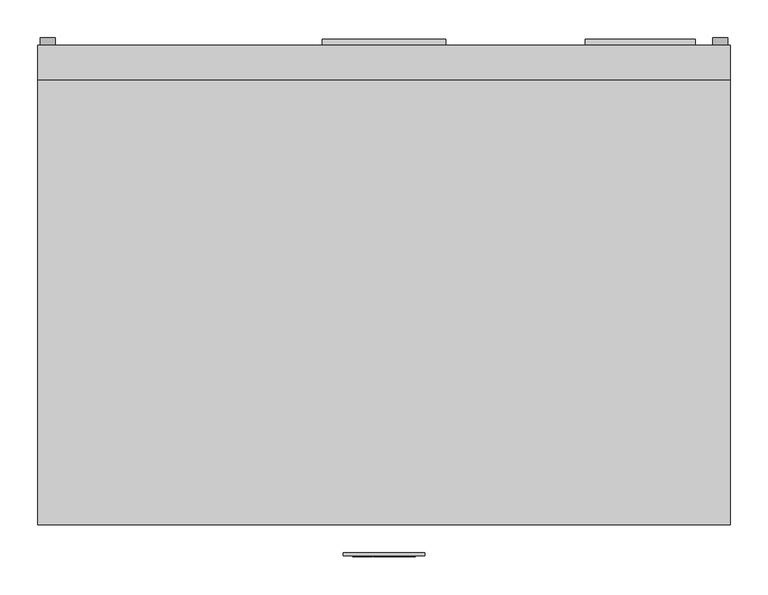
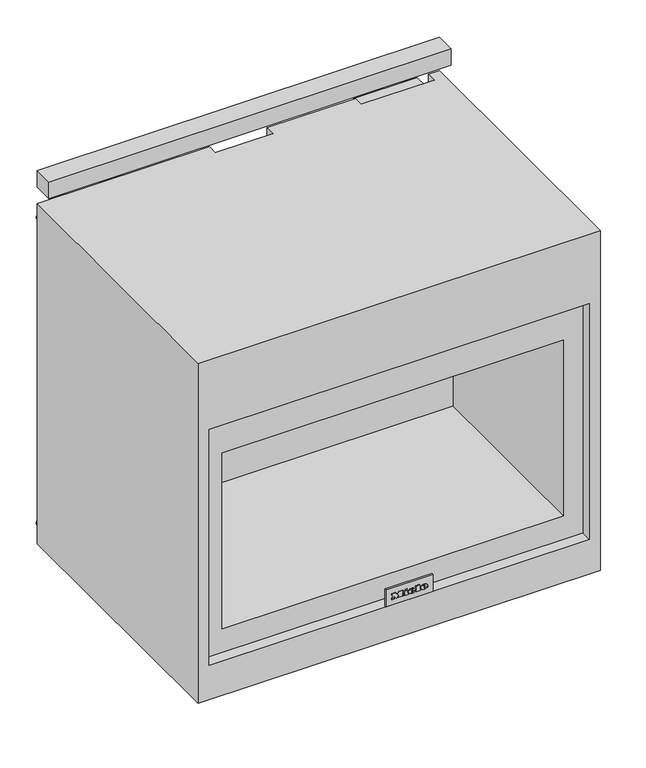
"""IFC4 building model written with IfcOpenShell, lengths in millimetres: proxy geometry, 11791630_USA_HR1936-3LP_EDST-CLS : 25193682_USA_11791630_HR1936-3LP_EDST-CLS."""

from ifc_helpers import new_model, si_unit, point, frame, frame_2d, origin, place, context, project, spatial, polyline, circle_curve, ellipse_curve, trimmed, segment, composite_curve, outline, extrude, faceted_brep, source, transform, mapped, element, save
from ifc_brep_helpers import plane_surface, cylinder_surface, revolved_surface, extruded_surface, advanced_brep


def specialty_equipment_10349fa4(model_context):
    return source(origin(), model_context, "Body", "SolidModel", [
        faceted_brep([(-457.0, 0.0, 862.0), (-457.0, -633.0, 862.0), (457.0, -633.0, 862.0), (457.0, 0.0, 862.0), (432.0, 0.0, 862.0), (432.0, -23.0, 862.0), (266.0, -23.0, 862.0), (266.0, 0.0, 862.0), (65.0, 0.0, 862.0), (65.0, -23.0, 862.0), (-66.0, -23.0, 862.0), (-66.0, 0.0, 862.0), (457.0, 0.0, 45.0), (457.0, -633.0, 45.0), (-457.0, -633.0, 45.0), (-457.0, 0.0, 45.0), (-432.0, 0.0, 45.0), (-432.0, -75.0, 45.0), (432.0, -75.0, 45.0), (432.0, 0.0, 45.0), (266.0, 0.0, 132.0), (65.0, 0.0, 132.0), (-66.0, 0.0, 132.0), (-270.0, 0.0, 132.0), (-270.0, 0.0, 784.0), (-411.0, 0.0, 784.0), (-411.0, 0.0, 132.0), (-432.0, 0.0, 132.0), (432.0, -633.0, 695.0), (432.0, -633.0, 128.0), (-432.0, -633.0, 128.0), (-432.0, -633.0, 695.0), (432.0, -608.0, 695.0), (-432.0, -608.0, 695.0), (-432.0, -608.0, 128.0), (432.0, -608.0, 128.0), (388.0, -608.0, 608.0), (388.0, -608.0, 185.0), (-388.0, -608.0, 185.0), (-388.0, -608.0, 608.0), (388.0, -173.0, 608.0), (-388.0, -173.0, 608.0), (-388.0, -173.0, 185.0), (388.0, -173.0, 185.0), (432.0, -23.0, 132.0), (266.0, -23.0, 132.0), (65.0, -23.0, 132.0), (-66.0, -23.0, 132.0), (432.0, -75.0, 132.0), (-411.0, -69.0, 784.0), (-270.0, -69.0, 784.0), (-270.0, -69.0, 132.0), (-411.0, -69.0, 132.0), (-432.0, -75.0, 132.0)], [[[0, 1, 2, 3, 4, 5, 6, 7, 8, 9, 10, 11]], [[12, 13, 14, 15, 16, 17, 18, 19]], [[8, 7, 20, 21]], [[3, 12, 19, 4]], [[15, 0, 11, 22, 23, 24, 25, 26, 27, 16]], [[1, 0, 15, 14]], [[2, 1, 14, 13], [28, 29, 30, 31]], [[3, 2, 13, 12]], [[32, 33, 34, 35], [36, 37, 38, 39]], [[32, 35, 29, 28]], [[35, 34, 30, 29]], [[34, 33, 31, 30]], [[33, 32, 28, 31]], [[40, 41, 42, 43]], [[40, 43, 37, 36]], [[43, 42, 38, 37]], [[42, 41, 39, 38]], [[41, 40, 36, 39]], [[6, 5, 44, 45]], [[10, 9, 46, 47]], [[9, 8, 21, 46]], [[11, 10, 47, 22]], [[5, 4, 19, 18, 48, 44]], [[7, 6, 45, 20]], [[49, 50, 51, 52]], [[50, 49, 25, 24]], [[50, 24, 23, 51]], [[25, 49, 52, 26]], [[53, 48, 18, 17]], [[27, 53, 17, 16]], [[48, 53, 27, 26, 52, 51, 23, 22, 47, 46, 21, 20, 45, 44]]]),
        extrude(outline(composite_curve([segment(trimmed(circle_curve(frame_2d((748.0, -299.0)), 7.5), [point((748.0, -291.5))], [point((748.0, -306.5))], False, "CARTESIAN"), True, "CONTINUOUS"), segment(trimmed(circle_curve(frame_2d((748.0, -299.0)), 7.5), [point((748.0, -306.5))], [point((748.0, -291.5))], False, "CARTESIAN"), True, "CONTINUOUS")], self_intersect=False)), frame((0.0, -66.0, 0.0), z_axis=(0.0, 1.0, 0.0), x_axis=(0.0, 0.0, 1.0)), (0.0, 0.0, 1.0), 30.0),
        extrude(outline(polyline([(743.0, -288.4829639), (753.0509015, -288.4829639), (753.0509015, -289.7409127), (748.1386151, -289.7409127), (753.0475587, -294.8904554), (753.0475587, -296.6455728), (748.9164775, -292.3179994), (743.0, -296.8019347), (743.0, -295.2701694), (748.0664133, -291.4304743), (746.4465471, -289.7392234), (743.0, -289.7392234), (743.0, -288.4829639)])), frame((0.0, -36.0, 0.0), z_axis=(0.0, 1.0, 0.0), x_axis=(0.0, 0.0, 1.0)), (0.0, 0.0, 1.0), 1.0),
        extrude(outline(polyline([(742.9900117, -299.5376107), (753.0405487, -296.8032463), (753.0405487, -298.1010309), (744.3952189, -300.1941056), (753.0411296, -302.6946617), (753.0411296, -304.5615338), (744.4117226, -307.0845612), (753.0419182, -309.165026), (753.0419182, -310.4626989), (742.9984871, -307.7244126), (742.9984871, -306.3735976), (751.8308623, -303.6286268), (742.9900117, -301.0716905), (742.9900117, -299.5376107)])), frame((0.0, -36.0, 0.0), z_axis=(0.0, 1.0, 0.0), x_axis=(0.0, 0.0, 1.0)), (0.0, 0.0, 1.0), 1.0),
        extrude(outline(composite_curve([segment(trimmed(circle_curve(frame_2d((-362.0, -35.0)), 7.5), [point((-369.5, -35.0))], [point((-354.5, -35.0))], False, "CARTESIAN"), True, "CONTINUOUS"), segment(trimmed(circle_curve(frame_2d((-362.0, -35.0)), 7.5), [point((-354.5, -35.0))], [point((-369.5, -35.0))], False, "CARTESIAN"), True, "CONTINUOUS")], self_intersect=False)), frame((0.0, 0.0, 754.0), z_axis=(0.0, 0.0, 1.0), x_axis=(1.0, 0.0, 0.0)), (0.0, 0.0, 1.0), 30.0),
        extrude(outline(composite_curve([segment(trimmed(circle_curve(frame_2d((239.0, -44.0)), 7.5), [point((239.0, -51.5))], [point((239.0, -36.5))], False, "CARTESIAN"), True, "CONTINUOUS"), segment(trimmed(circle_curve(frame_2d((239.0, -44.0)), 7.5), [point((239.0, -36.5))], [point((239.0, -51.5))], False, "CARTESIAN"), True, "CONTINUOUS")], self_intersect=False)), frame((0.0, 0.0, 102.0), z_axis=(0.0, 0.0, 1.0), x_axis=(1.0, 0.0, 0.0)), (0.0, 0.0, 1.0), 30.0),
        extrude(outline(polyline([(246.4261097, -48.2846028), (239.1553153, -48.2846028), (239.1553153, -47.0259878), (245.1324687, -47.0259878), (245.1324687, -44.0398896), (239.4699511, -44.0398896), (239.4699511, -42.7868997), (245.1324687, -42.7868997), (245.1324687, -39.484481), (239.0234692, -39.484481), (239.0234692, -38.223126), (246.4261097, -38.223126), (246.4261097, -48.2846028)])), frame((0.0, 0.0, 101.0), z_axis=(0.0, 0.0, 1.0), x_axis=(1.0, 0.0, 0.0)), (0.0, 0.0, 1.0), 1.0),
        extrude(outline(polyline([(237.0939455, -48.2781045), (230.9083542, -48.2781045), (230.9083542, -47.0259878), (235.9083542, -47.0259878), (235.9083542, -38.223126), (237.0939455, -38.223126), (237.0939455, -48.2781045)])), frame((0.0, 0.0, 101.0), z_axis=(0.0, 0.0, 1.0), x_axis=(1.0, 0.0, 0.0)), (0.0, 0.0, 1.0), 1.0),
        extrude(outline(composite_curve([segment(polyline([(-359.0941465, -34.8216074), (-355.0193946, -34.8216074), (-355.0193946, -36.0727848), (-357.8300756, -36.0727848), (-357.8300756, -37.8953779), (-356.5547934, -38.5734575), (-354.8554891, -38.8730907)]), True, "CONTINUOUS"), segment(trimmed(circle_curve(frame_2d((-354.7763582, -35.1835188)), 3.6904203), [point((-354.8554891, -38.8730907))], [point((-351.0917956, -34.975672))], True, "CARTESIAN"), True, "CONTINUOUS"), segment(trimmed(circle_curve(frame_2d((-355.2742118, -35.2116028)), 4.1890654), [point((-351.0917956, -34.975672))], [point((-354.8924604, -31.0399683))], True, "CARTESIAN"), True, "CONTINUOUS"), segment(trimmed(circle_curve(frame_2d((-355.1434541, -33.7827322)), 2.7542243), [point((-354.8924604, -31.0399683))], [point((-357.2311401, -31.9862582))], True, "CARTESIAN"), True, "CONTINUOUS"), segment(polyline([(-357.2311401, -31.9862582), (-357.7913432, -33.1348449), (-358.9545959, -32.808521), (-358.2222817, -31.1459412)]), True, "CONTINUOUS"), segment(trimmed(circle_curve(frame_2d((-355.0056573, -34.3038983)), 4.5077007), [point((-358.2222817, -31.1459412))], [point((-354.8478593, -29.7989604))], False, "CARTESIAN"), True, "CONTINUOUS"), segment(trimmed(circle_curve(frame_2d((-355.0297107, -35.0029797)), 5.2071956), [point((-354.8478593, -29.7989604))], [point((-349.8225151, -35.0029797))], False, "CARTESIAN"), True, "CONTINUOUS"), segment(trimmed(circle_curve(frame_2d((-355.0187023, -34.9634409)), 5.1963376), [point((-349.8225151, -35.0029797))], [point((-355.0187023, -40.1597785))], False, "CARTESIAN"), True, "CONTINUOUS"), segment(polyline([(-355.0187023, -40.1597785), (-357.0821579, -39.7823822), (-359.0941465, -38.5734575), (-359.0941465, -34.8216074)]), True, "CONTINUOUS")], self_intersect=False)), frame((0.0, 0.0, 753.0), z_axis=(0.0, 0.0, 1.0), x_axis=(1.0, 0.0, 0.0)), (0.0, 0.0, 1.0), 1.0),
        extrude(outline(composite_curve([segment(polyline([(-369.4581842, -37.6489066), (-368.202206, -37.8031213), (-369.1593436, -39.5606642)]), True, "CONTINUOUS"), segment(trimmed(circle_curve(frame_2d((-371.3057471, -36.6354063)), 3.6282478), [point((-369.1593436, -39.5606642))], [point((-372.8962663, -39.8964538))], False, "CARTESIAN"), True, "CONTINUOUS"), segment(trimmed(circle_curve(frame_2d((-371.7731504, -37.593725)), 2.5620205), [point((-372.8962663, -39.8964538))], [point((-374.32893, -37.7724425))], False, "CARTESIAN"), True, "CONTINUOUS"), segment(trimmed(circle_curve(frame_2d((-372.617737, -37.6527843)), 1.7153715), [point((-374.32893, -37.7724425))], [point((-373.147816, -36.021369))], False, "CARTESIAN"), True, "CONTINUOUS"), segment(polyline([(-373.147816, -36.021369), (-371.3069947, -35.4232499), (-369.987673, -33.9770867)]), True, "CONTINUOUS"), segment(trimmed(circle_curve(frame_2d((-371.1408399, -36.351197)), 2.6393548), [point((-369.987673, -33.9770867))], [point((-372.2940069, -33.9770867))], True, "CARTESIAN"), True, "CONTINUOUS"), segment(polyline([(-372.2940069, -33.9770867), (-372.7553884, -34.6611129), (-374.0084996, -34.5072502), (-373.5756304, -33.3795875)]), True, "CONTINUOUS"), segment(trimmed(circle_curve(frame_2d((-370.9527143, -36.6576461)), 4.1982564), [point((-373.5756304, -33.3795875))], [point((-371.0505395, -32.4605295))], False, "CARTESIAN"), True, "CONTINUOUS"), segment(trimmed(circle_curve(frame_2d((-370.9805679, -35.4626064)), 3.0028922), [point((-371.0505395, -32.4605295))], [point((-368.5718203, -33.6694816))], False, "CARTESIAN"), True, "CONTINUOUS"), segment(trimmed(circle_curve(frame_2d((-370.4380028, -34.5301363)), 2.0550823), [point((-368.5718203, -33.6694816))], [point((-369.4341096, -36.323335))], False, "CARTESIAN"), True, "CONTINUOUS"), segment(polyline([(-369.4341096, -36.323335), (-371.3494535, -36.9828408), (-373.0597255, -37.9076387), (-372.6768706, -38.6156702)]), True, "CONTINUOUS"), segment(trimmed(circle_curve(frame_2d((-371.3695779, -35.6018954)), 3.2850956), [point((-372.6768706, -38.6156702))], [point((-370.0622852, -38.6156702))], True, "CARTESIAN"), True, "CONTINUOUS"), segment(polyline([(-370.0622852, -38.6156702), (-369.4581842, -37.6489066)]), True, "CONTINUOUS")], self_intersect=False)), frame((0.0, 0.0, 753.0), z_axis=(0.0, 0.0, 1.0), x_axis=(1.0, 0.0, 0.0)), (0.0, 0.0, 1.0), 1.0),
        extrude(outline(composite_curve([segment(polyline([(-366.0009008, -40.0), (-367.2635363, -40.0), (-367.0191787, -38.9415709), (-366.8778726, -34.1117735)]), True, "CONTINUOUS"), segment(trimmed(circle_curve(frame_2d((-365.387549, -34.1553762)), 1.4909613), [point((-366.8778726, -34.1117735))], [point((-365.6381402, -32.6856246))], False, "CARTESIAN"), True, "CONTINUOUS"), segment(trimmed(circle_curve(frame_2d((-364.1175682, -37.7832301)), 5.3195602), [point((-365.6381402, -32.6856246))], [point((-362.440667, -32.7348914))], False, "CARTESIAN"), True, "CONTINUOUS"), segment(polyline([(-362.440667, -32.7348914), (-361.3643767, -33.4338425), (-360.8177226, -34.6616478), (-362.0710839, -34.8155412), (-362.6628147, -33.9704619)]), True, "CONTINUOUS"), segment(trimmed(circle_curve(frame_2d((-363.889909, -36.6278559)), 2.9270297), [point((-362.6628147, -33.9704619))], [point((-365.335883, -34.0829271))], True, "CARTESIAN"), True, "CONTINUOUS"), segment(polyline([(-365.335883, -34.0829271), (-365.6819155, -35.289686), (-362.4250607, -35.9227545)]), True, "CONTINUOUS"), segment(trimmed(circle_curve(frame_2d((-362.8373847, -38.0439776)), 2.1609254), [point((-362.4250607, -35.9227545))], [point((-361.2872437, -39.5495212))], False, "CARTESIAN"), True, "CONTINUOUS"), segment(trimmed(circle_curve(frame_2d((-363.2230106, -36.6941434)), 3.4496922), [point((-361.2872437, -39.5495212))], [point((-364.4810512, -39.9062626))], False, "CARTESIAN"), True, "CONTINUOUS"), segment(polyline([(-364.4810512, -39.9062626), (-365.6943945, -39.0566705), (-366.0009008, -40.0)]), True, "CONTINUOUS")], self_intersect=False), holes=[composite_curve([segment(polyline([(-365.6808047, -36.7241112), (-365.4778117, -37.8753414), (-364.6808418, -38.5929363), (-363.3846505, -38.8921857)]), True, "CONTINUOUS"), segment(trimmed(circle_curve(frame_2d((-363.1641539, -37.9371101)), 0.980198), [point((-363.3846505, -38.8921857))], [point((-362.5826105, -37.148063))], True, "CARTESIAN"), True, "CONTINUOUS"), segment(polyline([(-362.5826105, -37.148063), (-363.683896, -36.9339948), (-365.6808047, -36.7241112)]), True, "CONTINUOUS")], self_intersect=False)]), frame((0.0, 0.0, 753.0), z_axis=(0.0, 0.0, 1.0), x_axis=(1.0, 0.0, 0.0)), (0.0, 0.0, 1.0), 1.0),
        extrude(outline(composite_curve([segment(trimmed(circle_curve(frame_2d((-152.0, 39.6862697)), 39.6862697), [point((-112.6710759, 45.0))], [point((-191.3289241, 45.0))], False, "CARTESIAN"), True, "CONTINUOUS"), segment(polyline([(-191.3289241, 45.0), (-112.6710759, 45.0)]), True, "CONTINUOUS")], self_intersect=False)), frame((282.0, 0.0, 0.0), z_axis=(1.0, 0.0, 0.0), x_axis=(0.0, 1.0, 0.0)), (0.0, 0.0, 1.0), 28.0),
        extrude(outline(polyline([(-81.5, 8.0), (81.5, 8.0), (81.5, 0.0), (-81.5, 0.0), (-81.5, 8.0)])), frame((0.0, 0.0, 559.0), z_axis=(0.0, 0.0, 1.0), x_axis=(1.0, 0.0, 0.0)), (0.0, 0.0, 1.0), 237.0),
        extrude(outline(polyline([(266.0, 8.0), (411.0, 8.0), (411.0, -23.0), (266.0, -23.0), (266.0, 8.0)])), frame((0.0, 0.0, 742.0), z_axis=(0.0, 0.0, 1.0), x_axis=(1.0, 0.0, 0.0)), (0.0, 0.0, 1.0), 115.0),
        extrude(outline(composite_curve([segment(trimmed(circle_curve(frame_2d((822.0, 444.0)), 10.0), [point((822.0, 454.0))], [point((822.0, 434.0))], False, "CARTESIAN"), True, "CONTINUOUS"), segment(trimmed(circle_curve(frame_2d((822.0, 444.0)), 10.0), [point((822.0, 434.0))], [point((822.0, 454.0))], False, "CARTESIAN"), True, "CONTINUOUS")], self_intersect=False)), frame((0.0, 0.0, 0.0), z_axis=(0.0, 1.0, 0.0), x_axis=(0.0, 0.0, 1.0)), (0.0, 0.0, 1.0), 10.0),
        extrude(outline(composite_curve([segment(trimmed(circle_curve(frame_2d((87.0, 444.0)), 10.0), [point((87.0, 454.0))], [point((87.0, 434.0))], False, "CARTESIAN"), True, "CONTINUOUS"), segment(trimmed(circle_curve(frame_2d((87.0, 444.0)), 10.0), [point((87.0, 434.0))], [point((87.0, 454.0))], False, "CARTESIAN"), True, "CONTINUOUS")], self_intersect=False)), frame((0.0, 0.0, 0.0), z_axis=(0.0, 1.0, 0.0), x_axis=(0.0, 0.0, 1.0)), (0.0, 0.0, 1.0), 10.0),
        extrude(outline(composite_curve([segment(trimmed(circle_curve(frame_2d((822.0, -444.0)), 10.0), [point((822.0, -434.0))], [point((822.0, -454.0))], False, "CARTESIAN"), True, "CONTINUOUS"), segment(trimmed(circle_curve(frame_2d((822.0, -444.0)), 10.0), [point((822.0, -454.0))], [point((822.0, -434.0))], False, "CARTESIAN"), True, "CONTINUOUS")], self_intersect=False)), frame((0.0, 0.0, 0.0), z_axis=(0.0, 1.0, 0.0), x_axis=(0.0, 0.0, 1.0)), (0.0, 0.0, 1.0), 10.0),
        extrude(outline(composite_curve([segment(trimmed(circle_curve(frame_2d((87.0, -444.0)), 10.0), [point((87.0, -434.0))], [point((87.0, -454.0))], False, "CARTESIAN"), True, "CONTINUOUS"), segment(trimmed(circle_curve(frame_2d((87.0, -444.0)), 10.0), [point((87.0, -454.0))], [point((87.0, -434.0))], False, "CARTESIAN"), True, "CONTINUOUS")], self_intersect=False)), frame((0.0, 0.0, 0.0), z_axis=(0.0, 1.0, 0.0), x_axis=(0.0, 0.0, 1.0)), (0.0, 0.0, 1.0), 10.0),
        advanced_brep(
        [(32.17, -675.0, 177.1995), (32.17, -675.0, 178.563), (41.2015, -675.0, 178.563), (25.4875, -675.0, 178.563), (29.2, -675.0, 174.0), (40.972, -675.0, 177.1995), (36.895, -675.0, 177.1995), (33.682, -675.0, 175.6875), (32.17, -675.0, 180.291), (32.17, -675.0, 181.7625), (34.4785, -675.0, 181.7625), (34.4785, -675.0, 180.291), (32.17, -674.0, 177.1995), (33.682, -674.0, 175.6875), (36.895, -674.0, 177.1995), (40.972, -674.0, 177.1995), (29.2, -674.0, 174.0), (25.4875, -674.0, 178.563), (41.2015, -674.0, 178.563), (32.17, -674.0, 178.563), (32.17, -674.0, 180.291), (34.4785, -674.0, 180.291), (34.4785, -674.0, 181.7625), (32.17, -674.0, 181.7625)],
        [
            (0, 1),
            (1, 2),
            (2, 3, ellipse_curve(frame((33.3445, -675.0, 178.563), z_axis=(0.0, -1.0, 0.0), x_axis=(-1.0, 0.0, 0.0)), 7.857, 6.4935)),
            (3, 4, circle_curve(frame((30.7120736, -675.0, 179.022), z_axis=(0.0, -1.0, 0.0), x_axis=(0.0, 0.0, -1.0)), 5.2446974)),
            (4, 5, circle_curve(frame((33.1872142, -675.0, 182.586), z_axis=(0.0, -1.0, 0.0), x_axis=(0.0, 0.0, -1.0)), 9.46664)),
            (5, 6),
            (6, 7, circle_curve(frame((34.3419118, -675.0, 178.455), z_axis=(0.0, 1.0, 0.0), x_axis=(0.0, 0.0, -1.0)), 2.8450905)),
            (7, 0, circle_curve(frame((33.682, -675.0, 177.1995), z_axis=(0.0, 1.0, 0.0), x_axis=(0.0, 0.0, -1.0)), 1.512)),
            (8, 9),
            (9, 10, circle_curve(frame((33.32425, -675.0, 181.7625), z_axis=(0.0, 1.0, 0.0), x_axis=(0.0, 0.0, -1.0)), 1.15425)),
            (10, 11),
            (11, 8),
            (12, 13, circle_curve(frame((33.682, -674.0, 177.1995), z_axis=(0.0, -1.0, 0.0), x_axis=(0.0, 0.0, -1.0)), 1.512)),
            (13, 14, circle_curve(frame((34.3419118, -674.0, 178.455), z_axis=(0.0, -1.0, 0.0), x_axis=(0.0, 0.0, -1.0)), 2.8450905)),
            (14, 15),
            (15, 16, circle_curve(frame((33.1872142, -674.0, 182.586), z_axis=(0.0, 1.0, 0.0), x_axis=(0.0, 0.0, -1.0)), 9.46664)),
            (16, 17, circle_curve(frame((30.7120736, -674.0, 179.022), z_axis=(0.0, 1.0, 0.0), x_axis=(0.0, 0.0, -1.0)), 5.2446974)),
            (17, 18, ellipse_curve(frame((33.3445, -674.0, 178.563), z_axis=(0.0, 1.0, 0.0), x_axis=(-1.0, 0.0, 0.0)), 7.857, 6.4935)),
            (18, 19),
            (19, 12),
            (20, 21),
            (21, 22),
            (22, 23, circle_curve(frame((33.32425, -674.0, 181.7625), z_axis=(0.0, -1.0, 0.0), x_axis=(0.0, 0.0, -1.0)), 1.15425)),
            (23, 20),
            (0, 12),
            (19, 1),
            (18, 2),
            (5, 15),
            (14, 6),
            (17, 3),
            (13, 7),
            (16, 4),
            (8, 20),
            (23, 9),
            (22, 10),
            (21, 11),
        ],
        [
            plane_surface(frame((32.17, -675.0, 178.563), z_axis=(0.0, -1.0, 0.0), x_axis=(0.0, 0.0, 1.0))),
            plane_surface(frame((32.17, -674.0, 178.563), z_axis=(0.0, 1.0, 0.0), x_axis=(0.0, 0.0, -1.0))),
            plane_surface(frame((32.17, -675.0, 177.1995), z_axis=(1.0, 0.0, 0.0), x_axis=(0.0, 1.0, 0.0))),
            plane_surface(frame((32.17, -675.0, 178.563), z_axis=(0.0, 0.0, -1.0), x_axis=(0.0, 1.0, 0.0))),
            plane_surface(frame((40.972, -675.0, 177.1995), z_axis=(0.0, 0.0, 1.0), x_axis=(0.0, 1.0, 0.0))),
            extruded_surface(trimmed(ellipse_curve(frame((33.3445, -673.0, 178.563), z_axis=(0.0, -1.0, 0.0), x_axis=(-1.0, 0.0, 0.0)), 7.857, 6.4935), [point((41.2015, -673.0, 178.563))], [point((25.4875, -673.0, 178.563))], True, "CARTESIAN"), (0.0, -1.0, 0.0), 1.0),
            revolved_surface(polyline([(34.3419118, -674.0, 175.60990950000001), (34.3419118, -675.0, 175.60990950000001)]), (34.3419118, -674.0, 178.455), (0.0, 1.0, 0.0)),
            revolved_surface(polyline([(33.682, -674.0, 175.6875), (33.682, -675.0, 175.6875)]), (33.682, -674.0, 177.1995), (0.0, 1.0, 0.0)),
            cylinder_surface(frame((30.7120736, -674.0, 179.022), z_axis=(0.0, -1.0, 0.0), x_axis=(0.0, 0.0, -1.0)), 5.2446974),
            cylinder_surface(frame((33.1872142, -674.0, 182.586), z_axis=(0.0, -1.0, 0.0), x_axis=(0.0, 0.0, -1.0)), 9.46664),
            plane_surface(frame((32.17, -675.0, 180.291), z_axis=(1.0, 0.0, 0.0), x_axis=(0.0, 1.0, 0.0))),
            revolved_surface(polyline([(33.32425, -674.0, 180.60825), (33.32425, -675.0, 180.60825)]), (33.32425, -674.0, 181.7625), (0.0, 1.0, 0.0)),
            plane_surface(frame((34.4785, -675.0, 181.7625), z_axis=(-1.0, 0.0, 0.0), x_axis=(0.0, 1.0, 0.0))),
            plane_surface(frame((34.4785, -675.0, 180.291), z_axis=(0.0, 0.0, 1.0), x_axis=(0.0, 1.0, 0.0))),
        ],
        [
            (0, [[1, 2, 3, 4, 5, 6, 7, 8], [9, 10, 11, 12]]),
            (1, [[13, 14, 15, 16, 17, 18, 19, 20], [21, 22, 23, 24]]),
            (2, [[-1, 25, -20, 26]]),
            (3, [[-2, -26, -19, 27]]),
            (4, [[-6, 28, -15, 29]]),
            (5, [[-3, -27, -18, 30]]),
            (6, [[-7, -29, -14, 31]]),
            (7, [[-8, -31, -13, -25]]),
            (8, [[-4, -30, -17, 32]]),
            (9, [[-5, -32, -16, -28]]),
            (10, [[-9, 33, -24, 34]]),
            (11, [[-10, -34, -23, 35]]),
            (12, [[-11, -35, -22, 36]]),
            (13, [[-12, -36, -21, -33]]),
        ],
    ),
        advanced_brep(
        [(3.9955, -675.0, 177.1995), (3.9955, -675.0, 178.563), (13.027, -675.0, 178.563), (-2.687, -675.0, 178.563), (1.0255, -675.0, 174.0), (12.7975, -675.0, 177.1995), (8.7205, -675.0, 177.1995), (5.5075, -675.0, 175.6875), (3.9955, -675.0, 180.291), (3.9955, -675.0, 181.7625), (6.304, -675.0, 181.7625), (6.304, -675.0, 180.291), (3.9955, -674.0, 177.1995), (5.5075, -674.0, 175.6875), (8.7205, -674.0, 177.1995), (12.7975, -674.0, 177.1995), (1.0255, -674.0, 174.0), (-2.687, -674.0, 178.563), (13.027, -674.0, 178.563), (3.9955, -674.0, 178.563), (3.9955, -674.0, 180.291), (6.304, -674.0, 180.291), (6.304, -674.0, 181.7625), (3.9955, -674.0, 181.7625)],
        [
            (0, 1),
            (1, 2),
            (2, 3, ellipse_curve(frame((5.17, -675.0, 178.563), z_axis=(0.0, -1.0, 0.0), x_axis=(-1.0, 0.0, 0.0)), 7.857, 6.4935)),
            (3, 4, circle_curve(frame((2.5375736, -675.0, 179.022), z_axis=(0.0, -1.0, 0.0), x_axis=(0.0, 0.0, -1.0)), 5.2446974)),
            (4, 5, circle_curve(frame((5.0127142, -675.0, 182.586), z_axis=(0.0, -1.0, 0.0), x_axis=(0.0, 0.0, -1.0)), 9.46664)),
            (5, 6),
            (6, 7, circle_curve(frame((6.1674118, -675.0, 178.455), z_axis=(0.0, 1.0, 0.0), x_axis=(0.0, 0.0, -1.0)), 2.8450905)),
            (7, 0, circle_curve(frame((5.5075, -675.0, 177.1995), z_axis=(0.0, 1.0, 0.0), x_axis=(0.0, 0.0, -1.0)), 1.512)),
            (8, 9),
            (9, 10, circle_curve(frame((5.14975, -675.0, 181.7625), z_axis=(0.0, 1.0, 0.0), x_axis=(0.0, 0.0, -1.0)), 1.15425)),
            (10, 11),
            (11, 8),
            (12, 13, circle_curve(frame((5.5075, -674.0, 177.1995), z_axis=(0.0, -1.0, 0.0), x_axis=(0.0, 0.0, -1.0)), 1.512)),
            (13, 14, circle_curve(frame((6.1674118, -674.0, 178.455), z_axis=(0.0, -1.0, 0.0), x_axis=(0.0, 0.0, -1.0)), 2.8450905)),
            (14, 15),
            (15, 16, circle_curve(frame((5.0127142, -674.0, 182.586), z_axis=(0.0, 1.0, 0.0), x_axis=(0.0, 0.0, -1.0)), 9.46664)),
            (16, 17, circle_curve(frame((2.5375736, -674.0, 179.022), z_axis=(0.0, 1.0, 0.0), x_axis=(0.0, 0.0, -1.0)), 5.2446974)),
            (17, 18, ellipse_curve(frame((5.17, -674.0, 178.563), z_axis=(0.0, 1.0, 0.0), x_axis=(-1.0, 0.0, 0.0)), 7.857, 6.4935)),
            (18, 19),
            (19, 12),
            (20, 21),
            (21, 22),
            (22, 23, circle_curve(frame((5.14975, -674.0, 181.7625), z_axis=(0.0, -1.0, 0.0), x_axis=(0.0, 0.0, -1.0)), 1.15425)),
            (23, 20),
            (0, 12),
            (19, 1),
            (18, 2),
            (5, 15),
            (14, 6),
            (17, 3),
            (13, 7),
            (16, 4),
            (8, 20),
            (23, 9),
            (22, 10),
            (21, 11),
        ],
        [
            plane_surface(frame((3.9955, -675.0, 178.563), z_axis=(0.0, -1.0, 0.0), x_axis=(0.0, 0.0, 1.0))),
            plane_surface(frame((3.9955, -674.0, 178.563), z_axis=(0.0, 1.0, 0.0), x_axis=(0.0, 0.0, -1.0))),
            plane_surface(frame((3.9955, -675.0, 177.1995), z_axis=(1.0, 0.0, 0.0), x_axis=(0.0, 1.0, 0.0))),
            plane_surface(frame((3.9955, -675.0, 178.563), z_axis=(0.0, 0.0, -1.0), x_axis=(0.0, 1.0, 0.0))),
            plane_surface(frame((12.7975, -675.0, 177.1995), z_axis=(0.0, 0.0, 1.0), x_axis=(0.0, 1.0, 0.0))),
            extruded_surface(trimmed(ellipse_curve(frame((5.17, -673.0, 178.563), z_axis=(0.0, -1.0, 0.0), x_axis=(-1.0, 0.0, 0.0)), 7.857, 6.4935), [point((13.027, -673.0, 178.563))], [point((-2.687, -673.0, 178.563))], True, "CARTESIAN"), (0.0, -1.0, 0.0), 1.0),
            revolved_surface(polyline([(6.1674118, -674.0, 175.60990950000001), (6.1674118, -675.0, 175.60990950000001)]), (6.1674118, -674.0, 178.455), (0.0, 1.0, 0.0)),
            revolved_surface(polyline([(5.5075, -674.0, 175.6875), (5.5075, -675.0, 175.6875)]), (5.5075, -674.0, 177.1995), (0.0, 1.0, 0.0)),
            cylinder_surface(frame((2.5375736, -674.0, 179.022), z_axis=(0.0, -1.0, 0.0), x_axis=(0.0, 0.0, -1.0)), 5.2446974),
            cylinder_surface(frame((5.0127142, -674.0, 182.586), z_axis=(0.0, -1.0, 0.0), x_axis=(0.0, 0.0, -1.0)), 9.46664),
            plane_surface(frame((3.9955, -675.0, 180.291), z_axis=(1.0, 0.0, 0.0), x_axis=(0.0, 1.0, 0.0))),
            revolved_surface(polyline([(5.14975, -674.0, 180.60825), (5.14975, -675.0, 180.60825)]), (5.14975, -674.0, 181.7625), (0.0, 1.0, 0.0)),
            plane_surface(frame((6.304, -675.0, 181.7625), z_axis=(-1.0, 0.0, 0.0), x_axis=(0.0, 1.0, 0.0))),
            plane_surface(frame((6.304, -675.0, 180.291), z_axis=(0.0, 0.0, 1.0), x_axis=(0.0, 1.0, 0.0))),
        ],
        [
            (0, [[1, 2, 3, 4, 5, 6, 7, 8], [9, 10, 11, 12]]),
            (1, [[13, 14, 15, 16, 17, 18, 19, 20], [21, 22, 23, 24]]),
            (2, [[-1, 25, -20, 26]]),
            (3, [[-2, -26, -19, 27]]),
            (4, [[-6, 28, -15, 29]]),
            (5, [[-3, -27, -18, 30]]),
            (6, [[-7, -29, -14, 31]]),
            (7, [[-8, -31, -13, -25]]),
            (8, [[-4, -30, -17, 32]]),
            (9, [[-5, -32, -16, -28]]),
            (10, [[-9, 33, -24, 34]]),
            (11, [[-10, -34, -23, 35]]),
            (12, [[-11, -35, -22, 36]]),
            (13, [[-12, -36, -21, -33]]),
        ],
    ),
        extrude(outline(polyline([(186.7035, -10.76), (184.5165, -9.734), (186.6495, -5.1575), (188.8365, -6.17), (186.7035, -10.76)])), frame((0.0, -675.0, 0.0), z_axis=(0.0, 1.0, 0.0), x_axis=(0.0, 0.0, 1.0)), (0.0, 0.0, 1.0), 1.0),
        extrude(outline(polyline([(184.2195, -14.0945), (181.803, -14.0945), (181.803, -12.488), (176.268, -12.488), (176.268, -14.0945), (174.0, -14.0945), (174.0, -3.443), (176.268, -3.443), (176.268, -5.009), (184.2195, -5.009), (184.2195, -14.0945)])), frame((0.0, -675.0, 0.0), z_axis=(0.0, 1.0, 0.0), x_axis=(0.0, 0.0, 1.0)), (0.0, 0.0, 1.0), 1.0),
        extrude(outline(polyline([(185.2995, 13.783), (185.2995, 15.403), (176.268, 15.403), (176.268, 13.783), (174.0, 13.783), (174.0, 24.7315), (176.268, 24.7315), (176.268, 23.071), (187.5, 23.071), (187.5, 13.783), (185.2995, 13.783)])), frame((0.0, -675.0, 0.0), z_axis=(0.0, 1.0, 0.0), x_axis=(0.0, 0.0, 1.0)), (0.0, 0.0, 1.0), 1.0),
        extrude(outline(polyline([(185.2995, -41.0), (185.2995, -39.3665), (176.268, -39.3665), (176.268, -41.0), (174.0, -41.0), (174.0, -35.06), (176.268, -35.06), (176.268, -36.68), (181.9756247, -36.68), (174.0, -30.6455), (182.2527223, -24.584), (176.268, -24.584), (176.268, -26.2445), (174.0, -26.2445), (174.0, -15.4715), (176.268, -15.4715), (176.268, -17.186), (185.2995, -17.186), (185.2995, -15.4715), (187.5, -15.4715), (187.5, -23.693), (182.4375, -27.635), (187.5, -31.5905), (187.5, -41.0), (185.2995, -41.0)])), frame((0.0, -675.0, 0.0), z_axis=(0.0, 1.0, 0.0), x_axis=(0.0, 0.0, 1.0)), (0.0, 0.0, 1.0), 1.0),
        extrude(outline(polyline([(457.0, 0.0), (457.0, -45.0), (-457.0, -45.0), (-457.0, 0.0), (457.0, 0.0)])), frame((0.0, 0.0, 902.0), z_axis=(0.0, 0.0, 1.0), x_axis=(1.0, 0.0, 0.0)), (0.0, 0.0, 1.0), 40.0),
        extrude(outline(composite_curve([segment(polyline([(-670.0, 160.0), (-673.5, 160.0)]), True, "CONTINUOUS"), segment(trimmed(circle_curve(frame_2d((-464.0137328, 180.5)), 210.4869263), [point((-673.5, 160.0))], [point((-673.5, 201.0))], False, "CARTESIAN"), True, "CONTINUOUS"), segment(polyline([(-673.5, 201.0), (-670.0, 201.0), (-670.0, 160.0)]), True, "CONTINUOUS")], self_intersect=False)), frame((-53.5, 0.0, 0.0), z_axis=(1.0, 0.0, 0.0), x_axis=(0.0, 1.0, 0.0)), (0.0, 0.0, 1.0), 107.0),
    ])


if __name__ == "__main__":
    model = new_model("IFC4")
    model_context = context("Model", 3, world=origin())
    ifc_project = project(units=[si_unit("LENGTHUNIT", "METRE", prefix="MILLI")], contexts=[model_context])
    site = spatial("IfcSite", under=ifc_project)
    building = spatial("IfcBuilding", under=site)
    placement = place(None, origin())
    specialty_equipment_shape = specialty_equipment_10349fa4(model_context)
    element("IfcBuildingElementProxy", 1, Name="11791630_USA_HR1936-3LP_EDST-CLS : 25193682_USA_11791630_HR1936-3LP_EDST-CLS", ObjectType="11791630_USA_HR1936-3LP_EDST-CLS : 25193682_USA_11791630_HR1936-3LP_EDST-CLS", at=placement, inside=building, context=model_context, shape_type="MappedRepresentation", body=[
        mapped(specialty_equipment_shape, transform((0.0, 0.0, 0.0), x_axis=(1.0, 0.0, 0.0), y_axis=(0.0, 1.0, 0.0), z_axis=(0.0, 0.0, 1.0))),
    ])
    save(model, "model.ifc")
